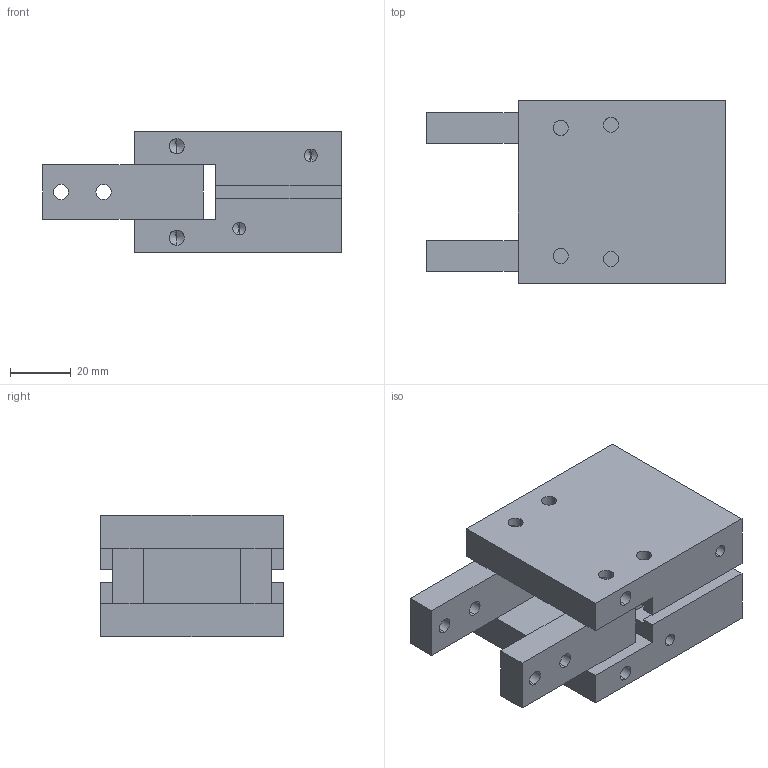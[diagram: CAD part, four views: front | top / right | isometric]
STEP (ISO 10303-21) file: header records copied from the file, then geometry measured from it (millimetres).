
FILE_DESCRIPTION (( 'STEP AP203' ), '1' );
FILE_NAME ('FCHY-32.STEP', '2016-03-29T06:23:13', ( 'Sam Lin' ), ( '' ), 'SwSTEP 2.0', 'SolidWorks 2013', '' );
FILE_SCHEMA (( 'CONFIG_CONTROL_DESIGN' ));
Length unit declared in the file: millimetre
Products named in the file (1): FCHY-32
Bounding box: 98 x 60 x 40 mm (x, y, z)
Volume: 141436 mm3; surface area: 31099.3 mm2
Topology: 1 solids, 1 shells, 121 faces, 326 edges, 190 vertices
Faces by surface type: cylinder 58, plane 43, cone 20
Entity records: 3713 total; most frequent: CARTESIAN_POINT 714, ORIENTED_EDGE 612, DIRECTION 602, EDGE_CURVE 306, AXIS2_PLACEMENT_3D 206, VERTEX_POINT 190, LINE 190, VECTOR 190
